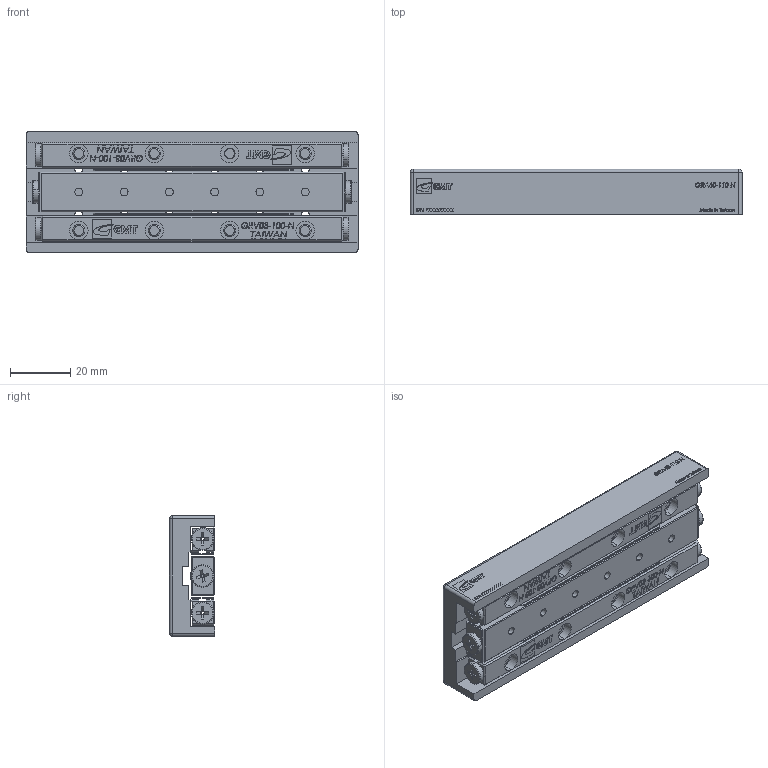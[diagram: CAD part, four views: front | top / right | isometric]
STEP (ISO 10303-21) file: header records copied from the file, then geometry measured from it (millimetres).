
FILE_DESCRIPTION (( 'STEP AP203' ), '1' );
FILE_NAME ('GRA40-110.STEP', '2012-10-19T01:50:31', ( '123' ), ( '' ), 'SwSTEP 2.0', 'SolidWorks 2012', '' );
FILE_SCHEMA (( 'CONFIG_CONTROL_DESIGN' ));
Products named in the file (1): GRA40-110
Bounding box: 110 x 15 x 40 mm (x, y, z)
Surface area: 26405.3 mm2 (no closed solid volume)
Topology: 0 solids, 77 shells, 789 faces, 4034 edges, 3212 vertices
Faces by surface type: plane 516, cylinder 128, cone 62, torus 40, bspline 39, sphere 4
Entity records: 47799 total; most frequent: CARTESIAN_POINT 17371, DIRECTION 5764, ORIENTED_EDGE 5452, EDGE_CURVE 4014, VERTEX_POINT 3212, LINE 2678, VECTOR 2678, AXIS2_PLACEMENT_3D 1543
